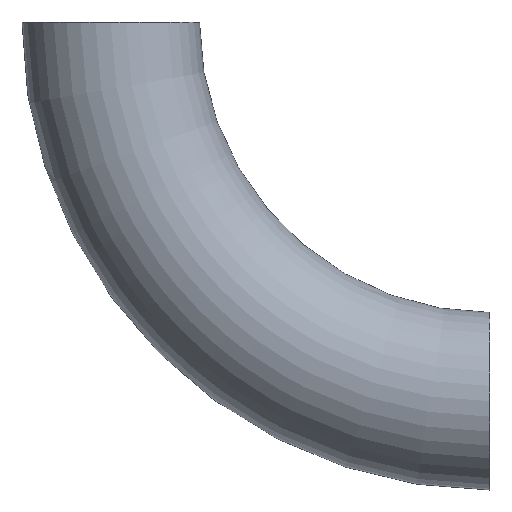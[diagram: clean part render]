
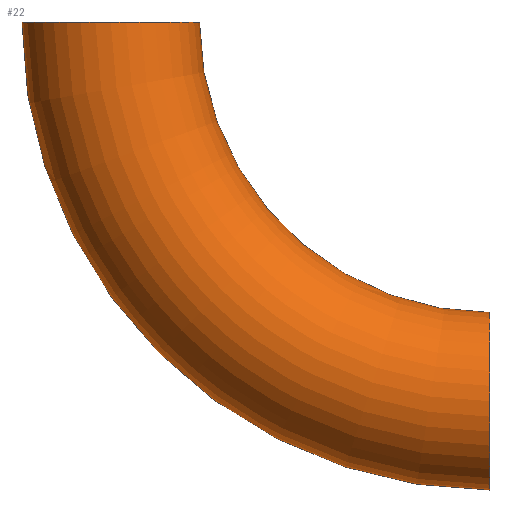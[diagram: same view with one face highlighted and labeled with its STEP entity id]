
A CAD part, front view. The second image highlights one B-rep face of the part: STEP entity #22.
In plain terms, the highlighted toroidal (fillet/blend) face has major radius 72 mm and minor radius 16.85 mm.
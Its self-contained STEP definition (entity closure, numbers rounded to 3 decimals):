
#10 = CARTESIAN_POINT ( 'NONE',  ( 0., 0., 0. ) ) ;
#15 = EDGE_CURVE ( 'NONE', #222, #45, #27, .T. ) ;
#22 = ADVANCED_FACE ( 'NONE', ( #28 ), #167, .T. ) ;
#24 = DIRECTION ( 'NONE',  ( -1., 0., 0. ) ) ;
#27 = CIRCLE ( 'NONE', #103, 88.85 ) ;
#28 = FACE_OUTER_BOUND ( 'NONE', #33, .T. ) ;
#33 = EDGE_LOOP ( 'NONE', ( #200, #111, #132, #187 ) ) ;
#35 = EDGE_CURVE ( 'NONE', #208, #63, #203, .T. ) ;
#42 = DIRECTION ( 'NONE',  ( 0., 0., 1. ) ) ;
#45 = VERTEX_POINT ( 'NONE', #175 ) ;
#60 = CARTESIAN_POINT ( 'NONE',  ( -55.15, 0., 0. ) ) ;
#63 = VERTEX_POINT ( 'NONE', #60 ) ;
#64 = DIRECTION ( 'NONE',  ( 0., 1., 0. ) ) ;
#79 = AXIS2_PLACEMENT_3D ( 'NONE', #240, #100, #137 ) ;
#83 = EDGE_CURVE ( 'NONE', #222, #208, #225, .T. ) ;
#97 = CARTESIAN_POINT ( 'NONE',  ( 0., 0., -72. ) ) ;
#100 = DIRECTION ( 'NONE',  ( 0., 1., 0. ) ) ;
#103 = AXIS2_PLACEMENT_3D ( 'NONE', #10, #64, #244 ) ;
#111 = ORIENTED_EDGE ( 'NONE', *, *, #83, .T. ) ;
#119 = DIRECTION ( 'NONE',  ( 0., 0., 1. ) ) ;
#132 = ORIENTED_EDGE ( 'NONE', *, *, #35, .T. ) ;
#134 = CARTESIAN_POINT ( 'NONE',  ( 0., 0., -55.15 ) ) ;
#137 = DIRECTION ( 'NONE',  ( 0., 0., 1. ) ) ;
#139 = CARTESIAN_POINT ( 'NONE',  ( -72., 0., 0. ) ) ;
#141 = DIRECTION ( 'NONE',  ( 0., 1., 0. ) ) ;
#147 = EDGE_CURVE ( 'NONE', #45, #63, #212, .T. ) ;
#158 = DIRECTION ( 'NONE',  ( 0., 0., 1. ) ) ;
#167 = TOROIDAL_SURFACE ( 'NONE', #211, 72., 16.85 ) ;
#175 = CARTESIAN_POINT ( 'NONE',  ( -88.85, 0., 0. ) ) ;
#180 = CARTESIAN_POINT ( 'NONE',  ( 0., 0., 0. ) ) ;
#187 = ORIENTED_EDGE ( 'NONE', *, *, #147, .F. ) ;
#200 = ORIENTED_EDGE ( 'NONE', *, *, #15, .F. ) ;
#203 = CIRCLE ( 'NONE', #79, 55.15 ) ;
#208 = VERTEX_POINT ( 'NONE', #134 ) ;
#211 = AXIS2_PLACEMENT_3D ( 'NONE', #180, #141, #42 ) ;
#212 = CIRCLE ( 'NONE', #250, 16.85 ) ;
#217 = DIRECTION ( 'NONE',  ( 1., 0., 0. ) ) ;
#222 = VERTEX_POINT ( 'NONE', #230 ) ;
#225 = CIRCLE ( 'NONE', #237, 16.85 ) ;
#230 = CARTESIAN_POINT ( 'NONE',  ( 0., 0., -88.85 ) ) ;
#237 = AXIS2_PLACEMENT_3D ( 'NONE', #97, #24, #119 ) ;
#240 = CARTESIAN_POINT ( 'NONE',  ( 0., 0., 0. ) ) ;
#244 = DIRECTION ( 'NONE',  ( 0., 0., 1. ) ) ;
#250 = AXIS2_PLACEMENT_3D ( 'NONE', #139, #158, #217 ) ;
